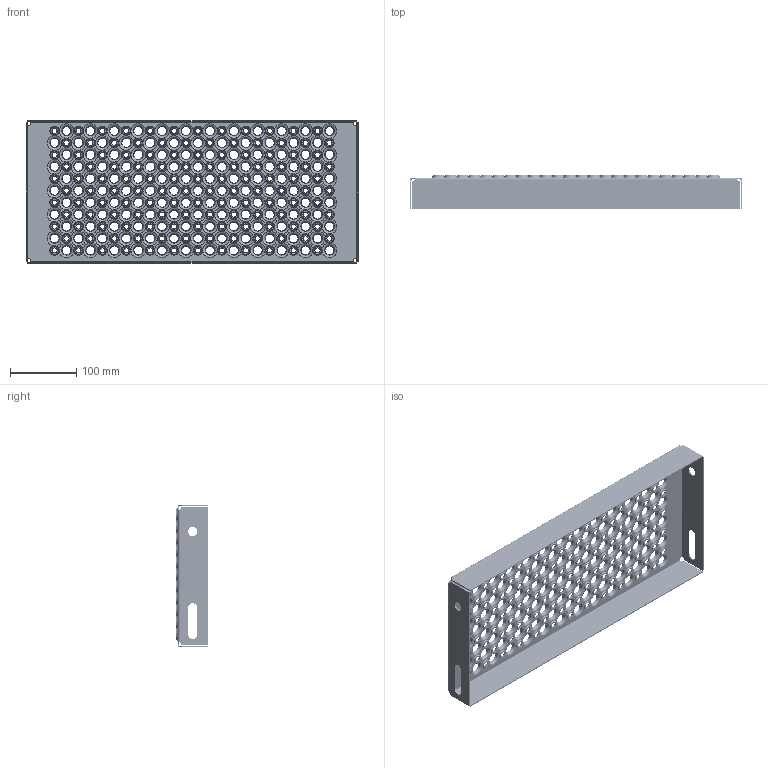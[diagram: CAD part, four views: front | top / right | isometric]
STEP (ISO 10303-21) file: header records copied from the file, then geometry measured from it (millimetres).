
FILE_DESCRIPTION (( 'STEP AP203' ), '1' );
FILE_NAME ('80242105G_Lejdertrin_215x500x45_mm_.STEP', '2015-01-14T05:38:59', ( '' ), ( '' ), 'SwSTEP 2.0', 'SolidWorks 2013', '' );
FILE_SCHEMA (( 'CONFIG_CONTROL_DESIGN' ));
Length unit declared in the file: millimetre
Products named in the file (1): 80242105G_Lejdertrin_215x500x45_mm_
Bounding box: 500 x 49.5 x 215 mm (x, y, z)
Volume: 313005.8 mm3; surface area: 336451.4 mm2
Topology: 1 solids, 1 shells, 1388 faces, 3862 edges, 2476 vertices
Faces by surface type: cone 792, torus 528, cylinder 34, plane 26, bspline 8
Full cylindrical faces by diameter (mm): 14 x2
Entity records: 32557 total; most frequent: DIRECTION 6114, CARTESIAN_POINT 5321, ORIENTED_EDGE 3496, EDGE_LOOP 3246, AXIS2_PLACEMENT_3D 3017, FACE_OUTER_BOUND 1918, EDGE_CURVE 1748, VERTEX_POINT 1684
